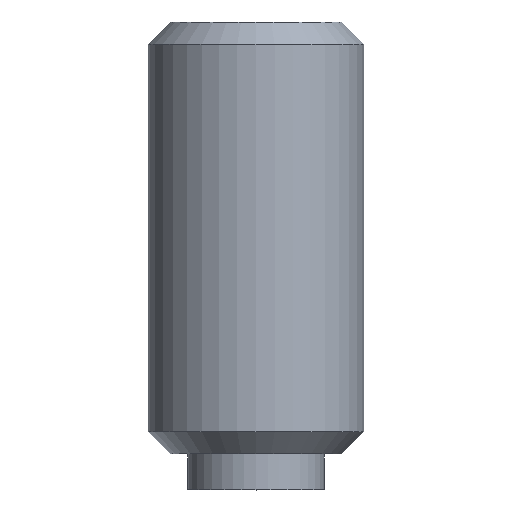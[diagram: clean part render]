
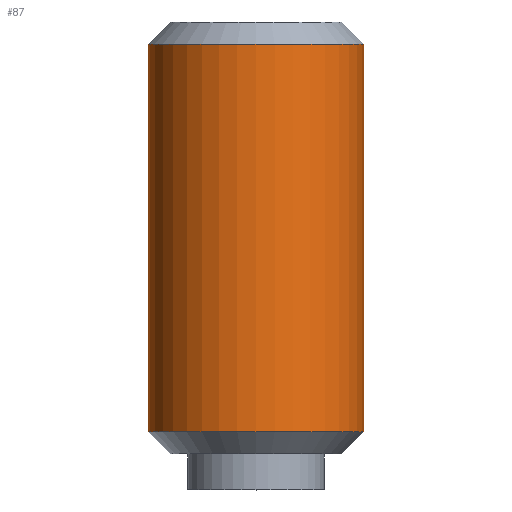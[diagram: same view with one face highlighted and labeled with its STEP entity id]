
A CAD part, top view. The second image highlights one B-rep face of the part: STEP entity #87.
In plain terms, the highlighted cylindrical face has radius 1.5 mm (diameter 3 mm), a full revolution.
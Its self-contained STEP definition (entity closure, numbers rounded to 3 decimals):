
#87 = ADVANCED_FACE( '', ( #118, #119 ), #120, .T. );
#118 = FACE_OUTER_BOUND( '', #152, .T. );
#119 = FACE_OUTER_BOUND( '', #153, .T. );
#120 = CYLINDRICAL_SURFACE( '', #154, 1.5 );
#152 = EDGE_LOOP( '', ( #238 ) );
#153 = EDGE_LOOP( '', ( #239 ) );
#154 = AXIS2_PLACEMENT_3D( '', #240, #241, #242 );
#238 = ORIENTED_EDGE( '', *, *, #270, .F. );
#239 = ORIENTED_EDGE( '', *, *, #271, .T. );
#240 = CARTESIAN_POINT( '', ( 0., 0., 0. ) );
#241 = DIRECTION( '', ( 0., 1., 0. ) );
#242 = DIRECTION( '', ( 0., 0., -1. ) );
#270 = EDGE_CURVE( '', #310, #310, #311, .T. );
#271 = EDGE_CURVE( '', #312, #312, #313, .T. );
#310 = VERTEX_POINT( '', #370 );
#311 = CIRCLE( '', #371, 1.5 );
#312 = VERTEX_POINT( '', #372 );
#313 = CIRCLE( '', #373, 1.5 );
#370 = CARTESIAN_POINT( '', ( 0., 0.807, -1.5 ) );
#371 = AXIS2_PLACEMENT_3D( '', #404, #405, #406 );
#372 = CARTESIAN_POINT( '', ( 0., 6.194, -1.5 ) );
#373 = AXIS2_PLACEMENT_3D( '', #407, #408, #409 );
#404 = CARTESIAN_POINT( '', ( 0., 0.807, 0. ) );
#405 = DIRECTION( '', ( 0., -1., 0. ) );
#406 = DIRECTION( '', ( 0., 0., -1. ) );
#407 = CARTESIAN_POINT( '', ( 0., 6.194, 0. ) );
#408 = DIRECTION( '', ( 0., -1., 0. ) );
#409 = DIRECTION( '', ( 0., 0., -1. ) );
